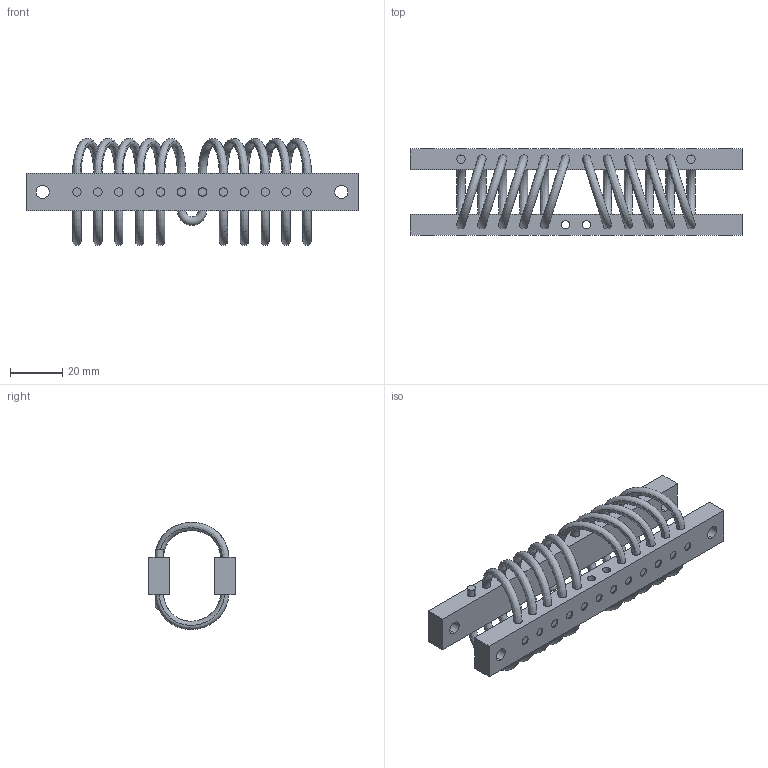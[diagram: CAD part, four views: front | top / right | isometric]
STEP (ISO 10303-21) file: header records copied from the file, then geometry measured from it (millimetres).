
FILE_DESCRIPTION (( 'STEP AP214' ), '1' );
FILE_NAME ('WR4-400-10DM.STEP', '2018-12-07T09:50:12', ( 'user' ), ( 'Microsoft' ), 'SwSTEP 2.0', 'SolidWorks 2016', '' );
FILE_SCHEMA (( 'AUTOMOTIVE_DESIGN' ));
Length unit declared in the file: millimetre
Products named in the file (1): WR4-400-10DM
Bounding box: 127 x 33 x 40.97 mm (x, y, z)
Volume: 34099 mm3; surface area: 26725.4 mm2
Topology: 25 solids, 25 shells, 316 faces, 702 edges, 460 vertices
Faces by surface type: cylinder 192, plane 82, bspline 40, torus 2
Entity records: 21310 total; most frequent: CARTESIAN_POINT 14039, ORIENTED_EDGE 1404, DIRECTION 1382, EDGE_CURVE 702, AXIS2_PLACEMENT_3D 583, VERTEX_POINT 460, EDGE_LOOP 396, FACE_OUTER_BOUND 316
